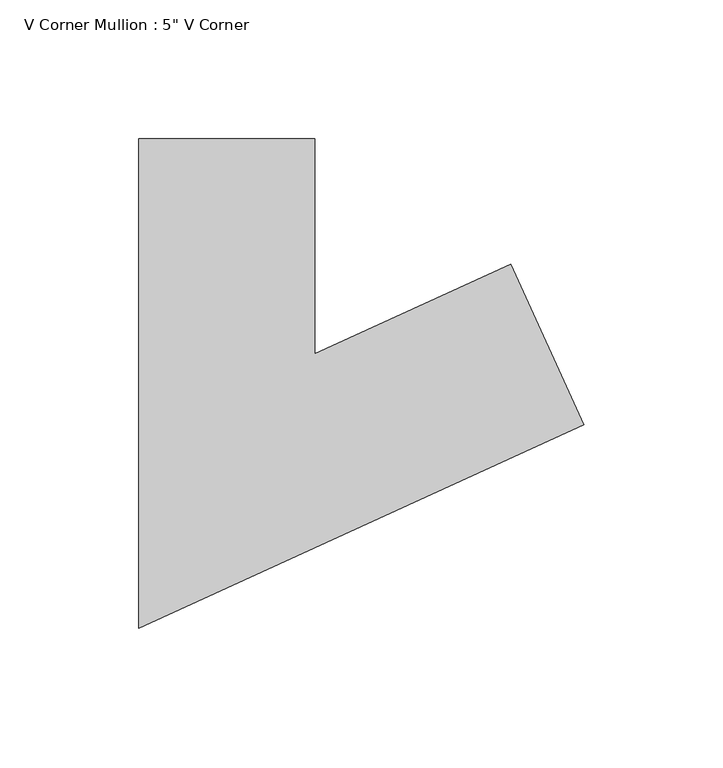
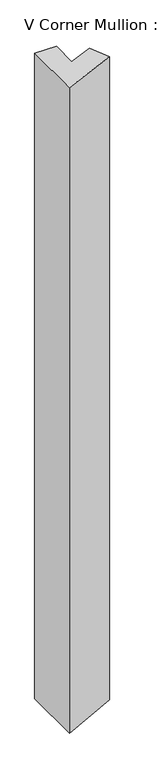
"""IFC4 building model written with IfcOpenShell, lengths in millimetres: member geometry."""

from ifc_helpers import new_model, si_unit, origin, place, context, project, spatial, faceted_brep, source, transform, mapped, element, save


def member_ec44c6c5(model_context):
    return source(origin(), model_context, "Body", "Brep", [
        faceted_brep([(61.49523, 18.2208415, -1.8360683), (87.9205542, -39.5195451, -2.6250515), (87.9205542, -39.5195451, -1996.7026102), (61.49523, 18.2208415, -1997.1827733), (-9.0228811, -14.0523047, 0.2693969), (-9.0228811, -14.0523047, -1998.4641274), (-9.0228811, 63.5, 0.2693969), (-9.0228811, 63.5, -1998.4641274), (-72.5228811, 63.5, 2.1653219), (-72.5228811, 63.5, -1999.6179584), (-72.5228811, -112.9476953, 2.1653219), (-72.5228811, -112.9476953, -1999.6179584)], [[[0, 1, 2, 3]], [[4, 0, 3, 5]], [[6, 4, 5, 7]], [[8, 6, 7, 9]], [[10, 8, 9, 11]], [[1, 10, 11, 2]], [[1, 0, 4, 6, 8, 10]], [[2, 11, 9, 7, 5, 3]]]),
    ])


if __name__ == "__main__":
    model = new_model("IFC4")
    model_context = context("Model", 3, world=origin())
    ifc_project = project(units=[si_unit("LENGTHUNIT", "METRE", prefix="MILLI")], contexts=[model_context])
    site = spatial("IfcSite", under=ifc_project)
    building = spatial("IfcBuilding", under=site)
    placement = place(None, origin())
    member_shape = member_ec44c6c5(model_context)
    element("IfcMember", 1, ObjectType="V Corner Mullion : 5\" V Corner", at=placement, inside=building, context=model_context, shape_type="MappedRepresentation", body=[
        mapped(member_shape, transform((0.0, 0.0, 0.0), x_axis=(1.0, 0.0, 0.0), y_axis=(0.0, 1.0, 0.0), z_axis=(0.0, 0.0, 1.0))),
    ])
    save(model, "model.ifc")
